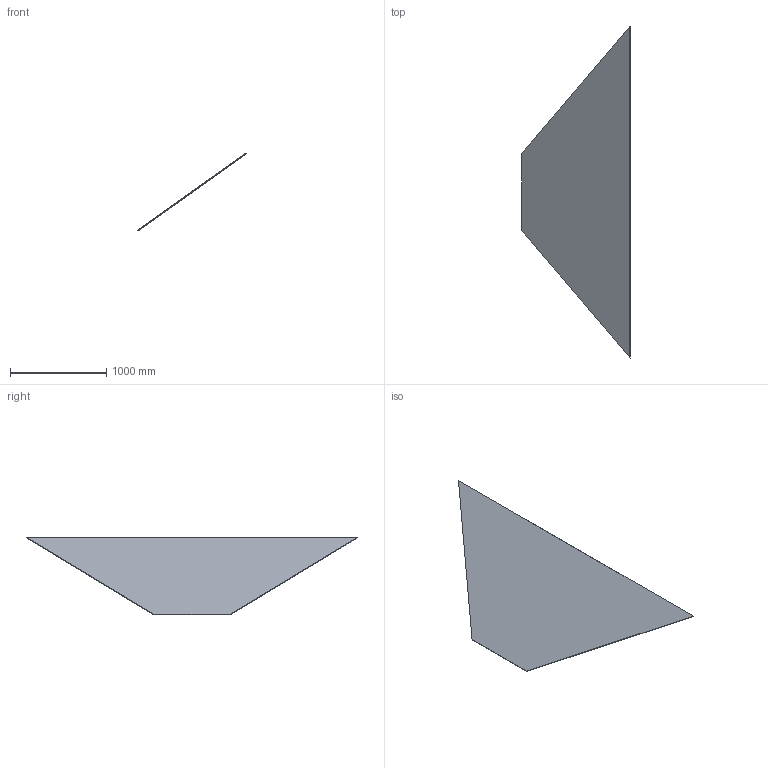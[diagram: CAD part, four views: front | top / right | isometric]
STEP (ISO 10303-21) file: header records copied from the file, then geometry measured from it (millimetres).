
FILE_DESCRIPTION(('Open CASCADE Model'),'2;1');
FILE_NAME('Open CASCADE Shape Model','2026-09-19T12:55:11',('Author'),( 'Open CASCADE'),'Open CASCADE STEP processor 7.9','Open CASCADE 7.9' ,'Unknown');
FILE_SCHEMA(('AUTOMOTIVE_DESIGN { 1 0 10303 214 1 1 1 1 }'));
Length unit declared in the file: millimetre
Products named in the file (1): Open CASCADE STEP translator 7.9 17
Bounding box: 1129.64 x 3450 x 806.52 mm (x, y, z)
Volume: 23467544.1 mm3; surface area: 5931501 mm2
Topology: 1 solids, 1 shells, 6 faces, 12 edges, 8 vertices
Faces by surface type: plane 6
Entity records: 322 total; most frequent: CARTESIAN_POINT 51, DIRECTION 50, LINE 36, VECTOR 36, ORIENTED_EDGE 24, PCURVE 24, DEFINITIONAL_REPRESENTATION 24, EDGE_CURVE 12
